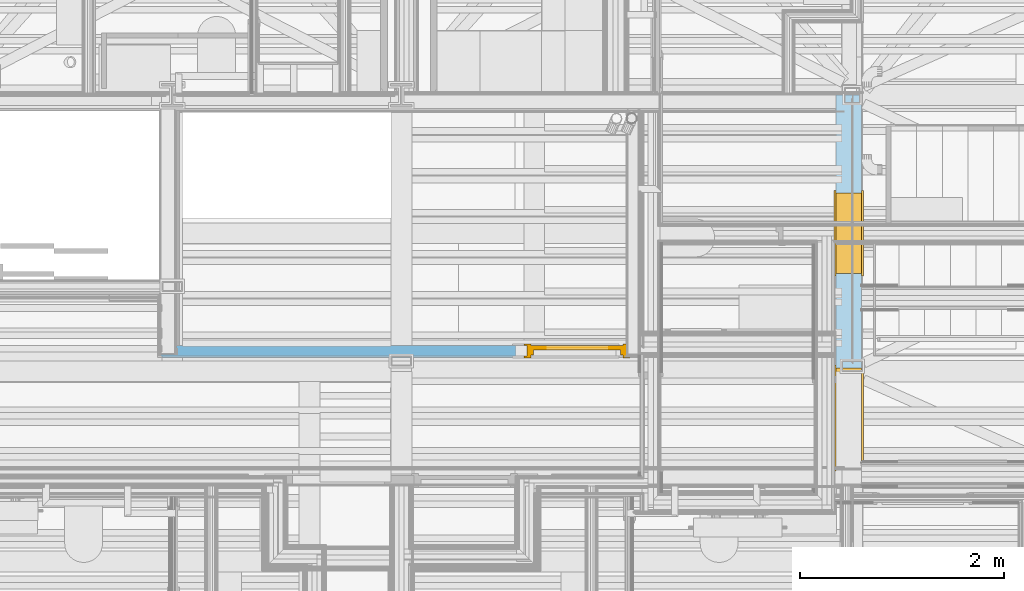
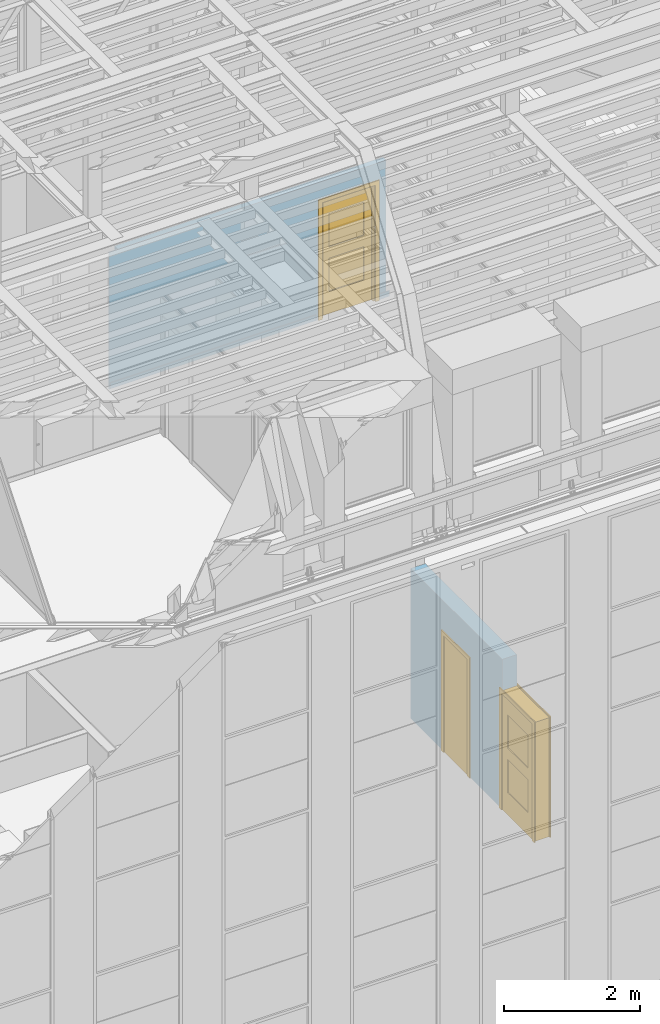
# One storey, part 99 of 183: 3 doors, 3 openings, plus 2 elements that do not belong to this part.
"""IFC2X3 building model written with IfcOpenShell, lengths in metres."""

from ifc_helpers import new_model, entity, si_unit, converted_unit, derived_unit, money_unit, direction, frame, frame_2d, origin_with_axes, place, context, subcontext, project, spatial, polyline, rectangle, outline, extrude, clip, bounded_halfspace, faceted_brep, material, layer, layer_set, layer_usage, type_object, element, fill, save


model = new_model("IFC2X3")

# Units and contexts
model_context = context("Model", 3, precision=1e-05, world=origin_with_axes(), true_north=direction((0.0, 1.0)))
body_context = subcontext(model_context, "Body", "Model", "MODEL_VIEW", scale=1.0)
ifc_project = project(units=[si_unit("LENGTHUNIT", "METRE"), si_unit("AREAUNIT", "SQUARE_METRE"), si_unit("VOLUMEUNIT", "CUBIC_METRE"), si_unit("ABSORBEDDOSEUNIT", "GRAY"), si_unit("AMOUNTOFSUBSTANCEUNIT", "MOLE"), si_unit("DOSEEQUIVALENTUNIT", "SIEVERT"), si_unit("ELECTRICCAPACITANCEUNIT", "FARAD"), si_unit("ELECTRICCHARGEUNIT", "COULOMB"), si_unit("ELECTRICCONDUCTANCEUNIT", "SIEMENS"), si_unit("ELECTRICCURRENTUNIT", "AMPERE"), si_unit("ELECTRICRESISTANCEUNIT", "OHM"), si_unit("ELECTRICVOLTAGEUNIT", "VOLT"), si_unit("ENERGYUNIT", "JOULE"), si_unit("FORCEUNIT", "NEWTON"), si_unit("FREQUENCYUNIT", "HERTZ"), si_unit("ILLUMINANCEUNIT", "LUX"), si_unit("INDUCTANCEUNIT", "HENRY"), si_unit("LUMINOUSFLUXUNIT", "LUMEN"), si_unit("LUMINOUSINTENSITYUNIT", "CANDELA"), si_unit("MAGNETICFLUXDENSITYUNIT", "TESLA"), si_unit("MAGNETICFLUXUNIT", "WEBER"), si_unit("MASSUNIT", "GRAM"), converted_unit("PLANEANGLEUNIT", "degree", entity("IfcReal", 0.0174532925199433), si_unit("PLANEANGLEUNIT", "RADIAN"), dimensions=[0, 0, 0, 0, 0, 0, 0]), si_unit("POWERUNIT", "WATT"), si_unit("PRESSUREUNIT", "PASCAL"), si_unit("RADIOACTIVITYUNIT", "BECQUEREL"), si_unit("SOLIDANGLEUNIT", "STERADIAN"), si_unit("THERMODYNAMICTEMPERATUREUNIT", "KELVIN"), si_unit("TIMEUNIT", "SECOND"), derived_unit("ACCELERATIONUNIT", [(si_unit("LENGTHUNIT", "METRE"), 1), (si_unit("TIMEUNIT", "SECOND"), -2)]), derived_unit("ANGULARVELOCITYUNIT", [(converted_unit("PLANEANGLEUNIT", "degree", entity("IfcReal", 0.0174532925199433), si_unit("PLANEANGLEUNIT", "RADIAN"), dimensions=[0, 0, 0, 0, 0, 0, 0]), 1), (si_unit("TIMEUNIT", "SECOND"), -1)]), derived_unit("CURVATUREUNIT", [(converted_unit("PLANEANGLEUNIT", "degree", entity("IfcReal", 0.0174532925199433), si_unit("PLANEANGLEUNIT", "RADIAN"), dimensions=[0, 0, 0, 0, 0, 0, 0]), 1), (si_unit("LENGTHUNIT", "METRE"), -1)]), derived_unit("DYNAMICVISCOSITYUNIT", [(si_unit("PRESSUREUNIT", "PASCAL"), 1), (si_unit("TIMEUNIT", "SECOND"), 1)]), derived_unit("HEATFLUXDENSITYUNIT", [(si_unit("POWERUNIT", "WATT"), 1), (si_unit("LENGTHUNIT", "METRE"), -2)]), derived_unit("HEATINGVALUEUNIT", [(si_unit("ENERGYUNIT", "JOULE"), 1), (si_unit("MASSUNIT", "GRAM"), -1)]), derived_unit("INTEGERCOUNTRATEUNIT", [(si_unit("TIMEUNIT", "SECOND"), -1)]), derived_unit("IONCONCENTRATIONUNIT", [(si_unit("MASSUNIT", "GRAM"), 1), (si_unit("VOLUMEUNIT", "CUBIC_METRE"), -1)]), derived_unit("ISOTHERMALMOISTURECAPACITYUNIT", [(si_unit("VOLUMEUNIT", "CUBIC_METRE"), 1), (si_unit("MASSUNIT", "GRAM"), -1)]), derived_unit("KINEMATICVISCOSITYUNIT", [(si_unit("AREAUNIT", "SQUARE_METRE"), 1), (si_unit("TIMEUNIT", "SECOND"), -1)]), derived_unit("LINEARFORCEUNIT", [(si_unit("FORCEUNIT", "NEWTON"), 1), (si_unit("LENGTHUNIT", "METRE"), -1)]), derived_unit("LINEARMOMENTUNIT", [(si_unit("FORCEUNIT", "NEWTON"), 1), (si_unit("LENGTHUNIT", "METRE"), -1)]), derived_unit("LINEARSTIFFNESSUNIT", [(si_unit("FORCEUNIT", "NEWTON"), 1), (si_unit("LENGTHUNIT", "METRE"), -1)]), derived_unit("LINEARVELOCITYUNIT", [(si_unit("LENGTHUNIT", "METRE"), 1), (si_unit("TIMEUNIT", "SECOND"), -1)]), derived_unit("LUMINOUSINTENSITYDISTRIBUTIONUNIT", [(si_unit("LUMINOUSINTENSITYUNIT", "CANDELA"), 1), (si_unit("LUMINOUSFLUXUNIT", "LUMEN"), -1)]), derived_unit("MASSDENSITYUNIT", [(si_unit("MASSUNIT", "GRAM"), 1), (si_unit("VOLUMEUNIT", "CUBIC_METRE"), -1)]), derived_unit("MASSFLOWRATEUNIT", [(si_unit("MASSUNIT", "GRAM"), 1), (si_unit("TIMEUNIT", "SECOND"), -1)]), derived_unit("MASSPERLENGTHUNIT", [(si_unit("MASSUNIT", "GRAM"), 1), (si_unit("LENGTHUNIT", "METRE"), -1)]), derived_unit("MODULUSOFELASTICITYUNIT", [(si_unit("FORCEUNIT", "NEWTON"), 1), (si_unit("AREAUNIT", "SQUARE_METRE"), -1)]), derived_unit("MODULUSOFLINEARSUBGRADEREACTIONUNIT", [(si_unit("FORCEUNIT", "NEWTON"), 1), (si_unit("LENGTHUNIT", "METRE"), -2)]), derived_unit("MODULUSOFROTATIONALSUBGRADEREACTIONUNIT", [(si_unit("FORCEUNIT", "NEWTON"), 1), (si_unit("LENGTHUNIT", "METRE"), 1)]), derived_unit("MODULUSOFSUBGRADEREACTIONUNIT", [(si_unit("FORCEUNIT", "NEWTON"), 1), (si_unit("VOLUMEUNIT", "CUBIC_METRE"), -1)]), derived_unit("MOISTUREDIFFUSIVITYUNIT", [(si_unit("VOLUMEUNIT", "CUBIC_METRE"), 1), (si_unit("TIMEUNIT", "SECOND"), -1)]), derived_unit("MOLECULARWEIGHTUNIT", [(si_unit("MASSUNIT", "GRAM"), 1), (si_unit("AMOUNTOFSUBSTANCEUNIT", "MOLE"), -1)]), derived_unit("PLANARFORCEUNIT", [(si_unit("FORCEUNIT", "NEWTON"), 1), (si_unit("LENGTHUNIT", "METRE"), -2)]), derived_unit("ROTATIONALFREQUENCYUNIT", [(si_unit("TIMEUNIT", "SECOND"), -1)]), derived_unit("ROTATIONALMASSUNIT", [(si_unit("MASSUNIT", "GRAM"), 1), (si_unit("LENGTHUNIT", "METRE"), 2)]), derived_unit("ROTATIONALSTIFFNESSUNIT", [(si_unit("FORCEUNIT", "NEWTON"), 1), (si_unit("LENGTHUNIT", "METRE"), 1), (converted_unit("PLANEANGLEUNIT", "degree", entity("IfcReal", 0.0174532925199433), si_unit("PLANEANGLEUNIT", "RADIAN"), dimensions=[0, 0, 0, 0, 0, 0, 0]), -1)]), derived_unit("SECTIONAREAINTEGRALUNIT", [(si_unit("LENGTHUNIT", "METRE"), 5)]), derived_unit("SECTIONMODULUSUNIT", [(si_unit("LENGTHUNIT", "METRE"), 3)]), derived_unit("SHEARMODULUSUNIT", [(si_unit("FORCEUNIT", "NEWTON"), 1), (si_unit("AREAUNIT", "SQUARE_METRE"), -1)]), derived_unit("SOUNDPOWERUNIT", [(si_unit("ENERGYUNIT", "JOULE"), 1), (si_unit("TIMEUNIT", "SECOND"), -1)]), derived_unit("SPECIFICHEATCAPACITYUNIT", [(si_unit("FORCEUNIT", "NEWTON"), 1), (si_unit("MASSUNIT", "GRAM"), -1), (si_unit("THERMODYNAMICTEMPERATUREUNIT", "KELVIN"), -1)]), derived_unit("TEMPERATUREGRADIENTUNIT", [(si_unit("THERMODYNAMICTEMPERATUREUNIT", "KELVIN"), 1), (si_unit("LENGTHUNIT", "METRE"), -1)]), derived_unit("THERMALADMITTANCEUNIT", [(si_unit("POWERUNIT", "WATT"), 1), (si_unit("AREAUNIT", "SQUARE_METRE"), -1), (si_unit("THERMODYNAMICTEMPERATUREUNIT", "KELVIN"), -1)]), derived_unit("THERMALCONDUCTANCEUNIT", [(si_unit("POWERUNIT", "WATT"), 1), (si_unit("LENGTHUNIT", "METRE"), -1), (si_unit("THERMODYNAMICTEMPERATUREUNIT", "KELVIN"), -1)]), derived_unit("THERMALEXPANSIONCOEFFICIENTUNIT", [(si_unit("THERMODYNAMICTEMPERATUREUNIT", "KELVIN"), -1)]), derived_unit("THERMALRESISTANCEUNIT", [(si_unit("AREAUNIT", "SQUARE_METRE"), 1), (si_unit("POWERUNIT", "WATT"), -1)]), derived_unit("THERMALTRANSMITTANCEUNIT", [(si_unit("POWERUNIT", "WATT"), 1), (si_unit("AREAUNIT", "SQUARE_METRE"), -1), (si_unit("THERMODYNAMICTEMPERATUREUNIT", "KELVIN"), -1)]), derived_unit("TORQUEUNIT", [(si_unit("FORCEUNIT", "NEWTON"), 1), (si_unit("LENGTHUNIT", "METRE"), 1)]), derived_unit("VAPORPERMEABILITYUNIT", [(si_unit("MASSUNIT", "GRAM"), 1), (si_unit("TIMEUNIT", "SECOND"), -1)]), derived_unit("VOLUMETRICFLOWRATEUNIT", [(si_unit("VOLUMEUNIT", "CUBIC_METRE"), 1), (si_unit("TIMEUNIT", "SECOND"), -1)]), derived_unit("WARPINGCONSTANTUNIT", [(si_unit("LENGTHUNIT", "METRE"), 6)]), derived_unit("WARPINGMOMENTUNIT", [(si_unit("FORCEUNIT", "NEWTON"), 1), (si_unit("LENGTHUNIT", "METRE"), 2)]), money_unit("GBP")], contexts=[model_context])

# Site, building, storey
site_placement = place(None, origin_with_axes())
site = spatial("IfcSite", under=ifc_project, at=site_placement, Name="Site", CompositionType="ELEMENT")
building_placement = place(site_placement, origin_with_axes())
building = spatial("IfcBuilding", under=site, at=building_placement, Name="Building01", CompositionType="ELEMENT")
storey_placement = place(building_placement, frame((0.0, 0.0, 5.15), z_axis=(0.0, 0.0, 1.0), x_axis=(1.0, 0.0, 0.0)))
storey = spatial("IfcBuildingStorey", under=building, at=storey_placement, Name="1F", CompositionType="ELEMENT", Elevation=5.15)

# Wall, openings
ifc_material_1 = material(Name="A_BSUK_Walls_Concrete")
ifc_layer_1 = layer(ifc_material_1, 0.25, ventilated=False)
ifc_layer_set_1 = layer_set([ifc_layer_1])
ifc_layer_usage_1 = layer_usage(ifc_layer_set_1, "AXIS2", "POSITIVE", 0.0)
wall_type_1 = type_object("IfcWallType", Name="A-Walls-Concrete", PredefinedType="NOTDEFINED")
wall_1_placement = place(storey_placement, frame((17.875, 8.8, 0.0), z_axis=(0.0, 0.0, 1.0), x_axis=(0.0, -1.0, 0.0)))
wall_1 = element("IfcWallStandardCase", 1, at=wall_1_placement, inside=storey, type_object=wall_type_1, material=ifc_layer_usage_1, Name="A-Walls-Concrete", ObjectType="A-Walls-Concrete", context=body_context, shape_type="SweptSolid", body=[
    extrude(rectangle(XDim=2.7, YDim=0.25, at=frame_2d((1.35, 0.0), x_axis=(1.0, 0.0))), origin_with_axes(), (0.0, 0.0, 1.0), 2.7),
])
opening_1_placement = place(wall_1_placement, frame((2.666, -0.125, 0.0), z_axis=(0.0, 0.0, 1.0), x_axis=(1.0, 0.0, 0.0)))
opening_1 = element("IfcOpeningElement", 2, at=opening_1_placement, cuts=wall_1, Name="Opening", ObjectType="Opening", context=body_context, shape_type="SweptSolid", body=[
    extrude(rectangle(XDim=2.142, YDim=0.984, at=frame_2d((-0.492, 1.071), x_axis=(0.0, -1.0))), frame((0.0, 0.0, 0.0), z_axis=(0.0, 1.0, 0.0), x_axis=(-1.0, 0.0, 0.0)), (0.0, 0.0, 1.0), 0.25),
])
opening_2_placement = place(wall_1_placement, frame((0.958, -0.125, 0.0), z_axis=(0.0, 0.0, 1.0), x_axis=(1.0, 0.0, 0.0)))
opening_2 = element("IfcOpeningElement", 3, at=opening_2_placement, cuts=wall_1, Name="Opening", ObjectType="Opening", context=body_context, shape_type="SweptSolid", body=[
    extrude(rectangle(XDim=2.142, YDim=0.784, at=frame_2d((-0.392, 1.071), x_axis=(0.0, -1.0))), frame((0.0, 0.0, 0.0), z_axis=(0.0, 1.0, 0.0), x_axis=(-1.0, 0.0, 0.0)), (0.0, 0.0, 1.0), 0.25),
])

# Space
space_1_placement = place(storey_placement, frame((9.225, 6.85, 0.017932), z_axis=(0.0, 0.0, 1.0), x_axis=(0.0, -1.0, 0.0)))
space_1 = spatial("IfcSpace", under=storey, at=space_1_placement, Name="hall (vented)", CompositionType="ELEMENT", InteriorOrExteriorSpace="NOTDEFINED")

# Door
ifc_material_2 = material(Name="A_BSUK_Doors")
door_style_1 = type_object("IfcDoorStyle", Name="A-Doors-SingleVisionPanels", ConstructionType="USERDEFINED", OperationType="SINGLE_SWING_LEFT", ParameterTakesPrecedence=False, Sizeable=False)
door_1_placement = place(opening_1_placement, frame((0.942, 0.0, 0.0), z_axis=(0.0, 0.0, 1.0), x_axis=(-1.0, 0.0, 0.0)))
door_1 = element("IfcDoor", 4, at=door_1_placement, inside=space_1, type_object=door_style_1, material=ifc_material_2, Name="1.02", ObjectType="A-Doors-SingleVisionPanels", OverallHeight=2.142, OverallWidth=0.984, context=body_context, shape_type="Brep", body=[
    faceted_brep([(0.0, -0.269, 2.1), (0.9, -0.269, 2.1), (0.9, -0.269, 0.0), (0.969, -0.269, 0.0), (0.969, -0.269, 2.169), (-0.069, -0.269, 2.169), (-0.069, -0.269, 0.0), (0.0, -0.269, 0.0), (0.969, -0.25, 2.169), (0.969, -0.25, 0.0), (-0.069, -0.25, 0.0), (-0.069, -0.25, 2.169), (-0.042, -0.25, 0.0), (-0.042, 0.0, 0.0), (-0.069, 0.0, 0.0), (-0.069, 0.019, 0.0), (0.0, 0.019, 0.0), (0.0, 0.019, 2.1), (0.9, 0.019, 2.1), (-0.069, 0.019, 2.169), (0.969, 0.019, 2.169), (0.969, 0.019, 0.0), (0.9, 0.019, 0.0), (-0.069, 0.0, 2.169), (-0.042, 0.0, 2.142), (-0.042, -0.25, 2.142), (0.942, 0.0, 2.142), (0.942, -0.25, 2.142), (0.942, -0.25, 0.0), (0.942, 0.0, 0.0), (0.969, 0.0, 0.0), (0.969, 0.0, 2.169)], [[[0, 1, 2, 3, 4, 5, 6, 7]], [[8, 4, 3, 9]], [[10, 6, 5, 11]], [[11, 5, 4, 8]], [[7, 6, 10, 12, 13, 14, 15, 16]], [[7, 16, 17, 0]], [[0, 17, 18, 1]], [[17, 16, 15, 19, 20, 21, 22, 18]], [[1, 18, 22, 2]], [[14, 23, 19, 15]], [[24, 13, 12, 25]], [[26, 24, 25, 27]], [[11, 8, 9, 28, 27, 25, 12, 10]], [[27, 28, 29, 26]], [[26, 29, 30, 31, 23, 14, 13, 24]], [[22, 21, 30, 29, 28, 9, 3, 2]], [[30, 21, 20, 31]], [[31, 20, 19, 23]]]),
    faceted_brep([(0.9, -0.09, 0.0), (0.9, -0.04, 0.0), (0.9, -0.04, 2.1), (0.9, -0.09, 2.1), (0.025, -0.09, 2.075), (0.875, -0.09, 2.075), (0.875, -0.09, 0.0), (0.0, -0.09, 2.1), (0.0, -0.09, 0.0), (0.025, -0.09, 0.0), (0.0, -0.04, 0.0), (0.025, -0.04, 0.0), (0.0, -0.04, 2.1), (0.025, -0.04, 2.075), (0.875, -0.04, 0.0), (0.875, -0.04, 2.075)], [[[0, 1, 2, 3]], [[4, 5, 6, 0, 3, 7, 8, 9]], [[9, 8, 10, 11]], [[3, 2, 12, 7]], [[7, 12, 10, 8]], [[13, 11, 10, 12, 2, 1, 14, 15]], [[5, 15, 14, 6]], [[14, 1, 0, 6]], [[9, 11, 13, 4]], [[4, 13, 15, 5]]]),
    faceted_brep([(0.15, -0.017, 0.4), (0.15, -0.023, 0.4), (0.15, -0.023, 1.0), (0.15, -0.017, 1.0), (0.75, -0.017, 1.0), (0.75, -0.023, 1.0), (0.75, -0.023, 0.4), (0.75, -0.017, 0.4)], [[[0, 1, 2, 3]], [[4, 5, 6, 7]], [[3, 2, 5, 4]], [[3, 4, 7, 0]], [[7, 6, 1, 0]], [[1, 6, 5, 2]]]),
    faceted_brep([(0.15, -0.017, 1.2), (0.15, -0.023, 1.2), (0.15, -0.023, 1.8), (0.15, -0.017, 1.8), (0.75, -0.017, 1.8), (0.75, -0.023, 1.8), (0.75, -0.023, 1.2), (0.75, -0.017, 1.2)], [[[0, 1, 2, 3]], [[4, 5, 6, 7]], [[3, 2, 5, 4]], [[3, 4, 7, 0]], [[7, 6, 1, 0]], [[1, 6, 5, 2]]]),
    faceted_brep([(0.15, -0.04, 1.8), (0.15, 0.0, 1.8), (0.75, 0.0, 1.8), (0.75, -0.04, 1.8), (0.75, -0.04, 1.0), (0.75, 0.0, 1.0), (0.75, 0.0, 0.4), (0.75, -0.04, 0.4), (0.15, 0.0, 0.4), (0.15, -0.04, 0.4), (0.15, 0.0, 1.0), (0.15, -0.04, 1.0), (0.9, 0.0, 0.0), (0.0, 0.0, 0.0), (0.0, 0.0, 2.1), (0.9, 0.0, 2.1), (0.15, 0.0, 1.2), (0.75, 0.0, 1.2), (0.9, -0.04, 0.0), (0.9, -0.04, 2.1), (0.0, -0.04, 2.1), (0.0, -0.04, 0.0), (0.75, -0.04, 1.2), (0.15, -0.04, 1.2)], [[[0, 1, 2, 3]], [[4, 5, 6, 7]], [[7, 6, 8, 9]], [[9, 8, 10, 11]], [[11, 10, 5, 4]], [[12, 13, 14, 15], [5, 10, 8, 6], [2, 1, 16, 17]], [[18, 12, 15, 19]], [[19, 15, 14, 20]], [[20, 14, 13, 21]], [[21, 13, 12, 18]], [[3, 2, 17, 22]], [[22, 17, 16, 23]], [[23, 16, 1, 0]], [[19, 20, 21, 18], [9, 11, 4, 7], [23, 0, 3, 22]]]),
])

fill(opening_1, door_1)

# Space
space_2_placement = place(storey_placement, frame((15.83, 8.82, 0.017975), z_axis=(0.0, 0.0, 1.0), x_axis=(0.0, -1.0, 0.0)))
space_2 = spatial("IfcSpace", under=storey, at=space_2_placement, Name="02", CompositionType="ELEMENT", InteriorOrExteriorSpace="NOTDEFINED")

# Door
door_style_2 = type_object("IfcDoorStyle", Name="A-Doors-SingleFlush", ConstructionType="USERDEFINED", OperationType="SINGLE_SWING_RIGHT", ParameterTakesPrecedence=False, Sizeable=False)
door_2_placement = place(opening_2_placement, frame((0.742, -0.1, 0.0), z_axis=(0.0, 0.0, 1.0), x_axis=(-1.0, 0.0, 0.0)))
door_2 = element("IfcDoor", 5, at=door_2_placement, inside=space_2, type_object=door_style_2, material=ifc_material_2, Name="1.08", ObjectType="A-Doors-SingleFlush", OverallHeight=2.142, OverallWidth=0.784, context=body_context, shape_type="Brep", body=[
    faceted_brep([(0.7, -0.369, 0.0), (0.769, -0.369, 0.0), (0.769, -0.369, 2.169), (-0.069, -0.369, 2.169), (-0.069, -0.369, 0.0), (0.0, -0.369, 0.0), (0.0, -0.369, 2.1), (0.7, -0.369, 2.1), (-0.069, -0.35, 0.0), (-0.069, -0.35, 2.169), (0.769, -0.35, 2.169), (0.769, -0.35, 0.0), (0.7, -0.081, 0.0), (0.769, -0.081, 0.0), (0.769, -0.1, 0.0), (0.742, -0.1, 0.0), (0.742, -0.35, 0.0), (0.7, -0.081, 2.1), (0.0, -0.081, 2.1), (0.0, -0.081, 0.0), (-0.069, -0.081, 0.0), (-0.069, -0.081, 2.169), (0.769, -0.081, 2.169), (0.769, -0.1, 2.169), (0.742, -0.35, 2.142), (0.742, -0.1, 2.142), (-0.042, -0.35, 2.142), (-0.042, -0.1, 2.142), (-0.042, -0.35, 0.0), (-0.042, -0.1, 0.0), (-0.069, -0.1, 2.169), (-0.069, -0.1, 0.0)], [[[0, 1, 2, 3, 4, 5, 6, 7]], [[8, 4, 3, 9]], [[10, 2, 1, 11]], [[9, 3, 2, 10]], [[12, 13, 14, 15, 16, 11, 1, 0]], [[7, 17, 12, 0]], [[6, 18, 17, 7]], [[18, 19, 20, 21, 22, 13, 12, 17]], [[5, 19, 18, 6]], [[13, 22, 23, 14]], [[24, 16, 15, 25]], [[26, 24, 25, 27]], [[11, 16, 24, 26, 28, 8, 9, 10]], [[27, 29, 28, 26]], [[25, 15, 14, 23, 30, 31, 29, 27]], [[5, 4, 8, 28, 29, 31, 20, 19]], [[30, 21, 20, 31]], [[23, 22, 21, 30]]]),
    faceted_brep([(0.0, -0.19, 2.1), (0.0, -0.14, 2.1), (0.0, -0.14, 0.0), (0.0, -0.19, 0.0), (0.675, -0.19, 0.0), (0.7, -0.19, 0.0), (0.7, -0.19, 2.1), (0.025, -0.19, 0.0), (0.025, -0.19, 2.075), (0.675, -0.19, 2.075), (0.675, -0.14, 0.0), (0.7, -0.14, 0.0), (0.7, -0.14, 2.1), (0.025, -0.14, 2.075), (0.025, -0.14, 0.0), (0.675, -0.14, 2.075)], [[[0, 1, 2, 3]], [[4, 5, 6, 0, 3, 7, 8, 9]], [[10, 11, 5, 4]], [[6, 12, 1, 0]], [[5, 11, 12, 6]], [[13, 14, 2, 1, 12, 11, 10, 15]], [[7, 14, 13, 8]], [[7, 3, 2, 14]], [[9, 15, 10, 4]], [[8, 13, 15, 9]]]),
    faceted_brep([(0.7, -0.14, 0.0), (0.7, -0.1, 0.0), (0.7, -0.1, 2.1), (0.7, -0.14, 2.1), (0.0, -0.14, 2.1), (0.0, -0.1, 2.1), (0.0, -0.1, 0.0), (0.0, -0.14, 0.0)], [[[0, 1, 2, 3]], [[4, 5, 6, 7]], [[7, 6, 1, 0]], [[3, 4, 7, 0]], [[3, 2, 5, 4]], [[1, 6, 5, 2]]]),
])

fill(opening_2, door_2)

# Wall, opening
ifc_material_3 = material(Name="A_BSUK_Walls_Timber")
ifc_layer_2 = layer(ifc_material_3, 0.015, ventilated=False)
ifc_material_4 = material(Name="A_BSUK_WallInternal_Finishes_Plasterboard")
ifc_layer_3 = layer(ifc_material_4, 0.013, ventilated=False)
ifc_layer_4 = layer(ifc_material_4, 0.012, ventilated=False)
ifc_material_5 = material(Name="Air Cavity")
ifc_layer_5 = layer(ifc_material_5, 0.05, ventilated=False)
ifc_layer_set_2 = layer_set([ifc_layer_2, ifc_layer_3, ifc_layer_4, ifc_layer_5, ifc_layer_4, ifc_layer_3])
ifc_layer_usage_2 = layer_usage(ifc_layer_set_2, "AXIS2", "POSITIVE", 0.0)
wall_type_2 = type_object("IfcWallType", Name="SHE_A-Walls_Type03c_Firewall_F120_100mm", PredefinedType="NOTDEFINED")
wall_2_placement = place(storey_placement, frame((11.16, 6.25, 9.795), z_axis=(0.0, 0.0, 1.0), x_axis=(1.0, 0.0, 0.0)))
wall_2 = element("IfcWallStandardCase", 6, at=wall_2_placement, inside=storey, type_object=wall_type_2, material=ifc_layer_usage_2, Name="3C", ObjectType="SHE_A-Walls_Type03c_Firewall_F120_100mm", context=body_context, shape_type="Clipping", body=[
    clip(clip(extrude(outline(polyline([(4.67844, 0.0), (4.67844, 0.013), (4.70844, 0.013), (4.70844, 0.075), (4.69344, 0.087), (4.69344, 0.1), (0.14, 0.1), (0.14, 0.013), (-0.015, 0.013), (-0.015, 0.0), (0.0, 0.0), (0.0, -0.015), (4.75344, -0.015), (4.75344, 0.0), (4.67844, 0.0)])), frame((0.0, 0.0, -0.015), z_axis=(0.0, 0.0, 1.0), x_axis=(1.0, 0.0, 0.0)), (0.0, 0.0, 1.0), 2.468), bounded_halfspace(frame((0.0, 0.0, 0.1), z_axis=(0.0, 0.0, 1.0), x_axis=(1.0, 0.0, 0.0)), False, frame((0.0, 0.0, 0.1), z_axis=(0.0, 0.0, 1.0), x_axis=(1.0, 0.0, 0.0)), polyline([(4.75344, 0.0), (0.0, 0.0), (0.0, -0.015), (4.75344, -0.015), (4.75344, 0.0)]))), bounded_halfspace(frame((0.0, 0.0, 0.0), z_axis=(0.0, 0.0, -1.0), x_axis=(-1.0, 0.0, 0.0)), False, frame((0.0, 0.0, 0.0), z_axis=(0.0, 0.0, -1.0), x_axis=(-1.0, 0.0, 0.0)), polyline([(-4.75344, -0.015), (0.0, -0.015), (0.0, 0.0), (-4.75344, 0.0), (-4.75344, -0.015)]))),
])
opening_3_placement = place(wall_2_placement, frame((3.56744, -0.015, -0.03), z_axis=(0.0, 0.0, 1.0), x_axis=(1.0, 0.0, 0.0)))
opening_3 = element("IfcOpeningElement", 7, at=opening_3_placement, cuts=wall_2, Name="Opening", ObjectType="Opening", context=body_context, shape_type="SweptSolid", body=[
    extrude(outline(polyline([(0.0, 0.0), (0.0, 2.157), (-0.984, 2.157), (-0.984, 0.015), (-0.91756, 0.015), (-0.91756, 0.0), (0.0, 0.0)])), frame((0.0, 0.0, 0.0), z_axis=(0.0, 1.0, 0.0), x_axis=(-1.0, 0.0, 0.0)), (0.0, 0.0, 1.0), 0.115),
    extrude(rectangle(XDim=0.984, YDim=2.157, at=frame_2d((-0.492, 1.0785), x_axis=(1.0, 0.0))), frame((0.0, 0.015, 0.0), z_axis=(0.0, 1.0, 0.0), x_axis=(-1.0, 0.0, 0.0)), (0.0, 0.0, 1.0), 0.013),
    extrude(outline(polyline([(0.0, 2.142), (0.0, 2.157), (-0.984, 2.157), (-0.984, 0.015), (-0.91756, 0.015), (-0.91756, 0.0), (0.06644, 0.0), (0.06644, 2.142), (0.0, 2.142)])), frame((0.0, 0.0, 0.0), z_axis=(0.0, 1.0, 0.0), x_axis=(-1.0, 0.0, 0.0)), (0.0, 0.0, 1.0), 0.015),
    extrude(rectangle(XDim=0.984, YDim=2.157, at=frame_2d((-0.492, 1.0785), x_axis=(1.0, 0.0))), frame((0.0, 0.028, 0.0), z_axis=(0.0, 1.0, 0.0), x_axis=(-1.0, 0.0, 0.0)), (0.0, 0.0, 1.0), 0.012),
    extrude(rectangle(XDim=0.984, YDim=2.157, at=frame_2d((-0.492, 1.0785), x_axis=(1.0, 0.0))), frame((0.0, 0.04, 0.0), z_axis=(0.0, 1.0, 0.0), x_axis=(-1.0, 0.0, 0.0)), (0.0, 0.0, 1.0), 0.05),
    extrude(rectangle(XDim=0.984, YDim=2.157, at=frame_2d((-0.492, 1.0785), x_axis=(1.0, 0.0))), frame((0.0, 0.09, 0.0), z_axis=(0.0, 1.0, 0.0), x_axis=(-1.0, 0.0, 0.0)), (0.0, 0.0, 1.0), 0.012),
    extrude(rectangle(XDim=0.984, YDim=2.157, at=frame_2d((-0.492, 1.0785), x_axis=(1.0, 0.0))), frame((0.0, 0.102, 0.0), z_axis=(0.0, 1.0, 0.0), x_axis=(-1.0, 0.0, 0.0)), (0.0, 0.0, 1.0), 0.013),
])

# Space
space_3_placement = place(storey_placement, frame((15.83844, 8.649812, 9.81), z_axis=(0.0, 0.0, 1.0), x_axis=(-1.0, 0.0, 0.0)))
space_3 = spatial("IfcSpace", under=storey, at=space_3_placement, Name="landing", CompositionType="ELEMENT", InteriorOrExteriorSpace="NOTDEFINED")

# Door
door_style_3 = type_object("IfcDoorStyle", Name="A-Doors-SingleVisionPanels", ConstructionType="USERDEFINED", OperationType="SINGLE_SWING_RIGHT", ParameterTakesPrecedence=False, Sizeable=False)
door_3_placement = place(opening_3_placement, frame((0.042, 0.115, 0.015), z_axis=(0.0, 0.0, 1.0), x_axis=(1.0, 0.0, 0.0)))
door_3 = element("IfcDoor", 8, at=door_3_placement, inside=space_3, type_object=door_style_3, material=ifc_material_2, Name="4.04", ObjectType="A-Doors-SingleVisionPanels", OverallHeight=2.157, OverallWidth=1.05043971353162, context=body_context, shape_type="Brep", body=[
    faceted_brep([(0.9, -0.119, 0.0), (0.969, -0.119, 0.0), (0.969, -0.119, 2.169), (-0.069, -0.119, 2.169), (-0.069, -0.119, 0.0), (0.0, -0.119, 0.0), (0.0, -0.119, 2.1), (0.9, -0.119, 2.1), (-0.069, -0.1, 0.0), (-0.069, -0.1, 2.169), (0.969, -0.1, 2.169), (0.969, -0.1, 0.0), (0.9, 0.019, 0.0), (0.969, 0.019, 0.0), (0.969, 0.0, 0.0), (0.942, 0.0, 0.0), (0.942, -0.1, 0.0), (0.9, 0.019, 2.1), (0.0, 0.019, 2.1), (0.0, 0.019, 0.0), (-0.069, 0.019, 0.0), (-0.069, 0.019, 2.169), (0.969, 0.019, 2.169), (0.969, 0.0, 2.169), (0.942, -0.1, 2.142), (0.942, 0.0, 2.142), (-0.042, -0.1, 2.142), (-0.042, 0.0, 2.142), (-0.042, -0.1, 0.0), (-0.042, 0.0, 0.0), (-0.069, 0.0, 2.169), (-0.069, 0.0, 0.0)], [[[0, 1, 2, 3, 4, 5, 6, 7]], [[8, 4, 3, 9]], [[10, 2, 1, 11]], [[9, 3, 2, 10]], [[12, 13, 14, 15, 16, 11, 1, 0]], [[7, 17, 12, 0]], [[6, 18, 17, 7]], [[18, 19, 20, 21, 22, 13, 12, 17]], [[5, 19, 18, 6]], [[13, 22, 23, 14]], [[24, 16, 15, 25]], [[26, 24, 25, 27]], [[11, 16, 24, 26, 28, 8, 9, 10]], [[27, 29, 28, 26]], [[25, 15, 14, 23, 30, 31, 29, 27]], [[5, 4, 8, 28, 29, 31, 20, 19]], [[30, 21, 20, 31]], [[23, 22, 21, 30]]]),
    faceted_brep([(0.0, -0.09, 2.1), (0.0, -0.04, 2.1), (0.0, -0.04, 0.0), (0.0, -0.09, 0.0), (0.875, -0.09, 0.0), (0.9, -0.09, 0.0), (0.9, -0.09, 2.1), (0.025, -0.09, 0.0), (0.025, -0.09, 2.075), (0.875, -0.09, 2.075), (0.875, -0.04, 0.0), (0.9, -0.04, 0.0), (0.9, -0.04, 2.1), (0.025, -0.04, 2.075), (0.025, -0.04, 0.0), (0.875, -0.04, 2.075)], [[[0, 1, 2, 3]], [[4, 5, 6, 0, 3, 7, 8, 9]], [[10, 11, 5, 4]], [[6, 12, 1, 0]], [[5, 11, 12, 6]], [[13, 14, 2, 1, 12, 11, 10, 15]], [[7, 14, 13, 8]], [[7, 3, 2, 14]], [[9, 15, 10, 4]], [[8, 13, 15, 9]]]),
    faceted_brep([(0.75, -0.017, 1.0), (0.75, -0.023, 1.0), (0.75, -0.023, 0.4), (0.75, -0.017, 0.4), (0.15, -0.017, 0.4), (0.15, -0.023, 0.4), (0.15, -0.023, 1.0), (0.15, -0.017, 1.0)], [[[0, 1, 2, 3]], [[4, 5, 6, 7]], [[7, 6, 1, 0]], [[3, 4, 7, 0]], [[3, 2, 5, 4]], [[1, 6, 5, 2]]]),
    faceted_brep([(0.75, -0.017, 1.8), (0.75, -0.023, 1.8), (0.75, -0.023, 1.2), (0.75, -0.017, 1.2), (0.15, -0.017, 1.2), (0.15, -0.023, 1.2), (0.15, -0.023, 1.8), (0.15, -0.017, 1.8)], [[[0, 1, 2, 3]], [[4, 5, 6, 7]], [[7, 6, 1, 0]], [[3, 4, 7, 0]], [[3, 2, 5, 4]], [[1, 6, 5, 2]]]),
    faceted_brep([(0.15, -0.04, 1.8), (0.15, 0.0, 1.8), (0.75, 0.0, 1.8), (0.75, -0.04, 1.8), (0.15, -0.04, 0.4), (0.15, 0.0, 0.4), (0.15, 0.0, 1.0), (0.15, -0.04, 1.0), (0.75, -0.04, 0.4), (0.75, 0.0, 0.4), (0.75, -0.04, 1.0), (0.75, 0.0, 1.0), (0.0, 0.0, 2.1), (0.9, 0.0, 2.1), (0.9, 0.0, 0.0), (0.0, 0.0, 0.0), (0.15, 0.0, 1.2), (0.75, 0.0, 1.2), (0.0, -0.04, 2.1), (0.0, -0.04, 0.0), (0.9, -0.04, 2.1), (0.9, -0.04, 0.0), (0.15, -0.04, 1.2), (0.75, -0.04, 1.2)], [[[0, 1, 2, 3]], [[4, 5, 6, 7]], [[8, 9, 5, 4]], [[10, 11, 9, 8]], [[7, 6, 11, 10]], [[12, 13, 14, 15], [5, 9, 11, 6], [16, 17, 2, 1]], [[18, 12, 15, 19]], [[20, 13, 12, 18]], [[21, 14, 13, 20]], [[19, 15, 14, 21]], [[22, 16, 1, 0]], [[23, 17, 16, 22]], [[3, 2, 17, 23]], [[19, 21, 20, 18], [4, 7, 10, 8], [22, 0, 3, 23]]]),
])

fill(opening_3, door_3)

save(model, "model.ifc")
